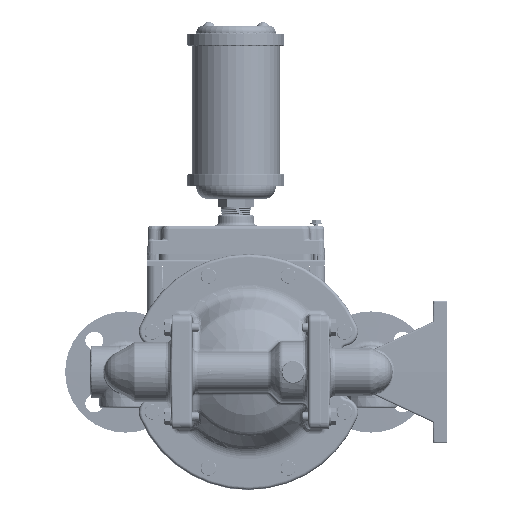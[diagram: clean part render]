
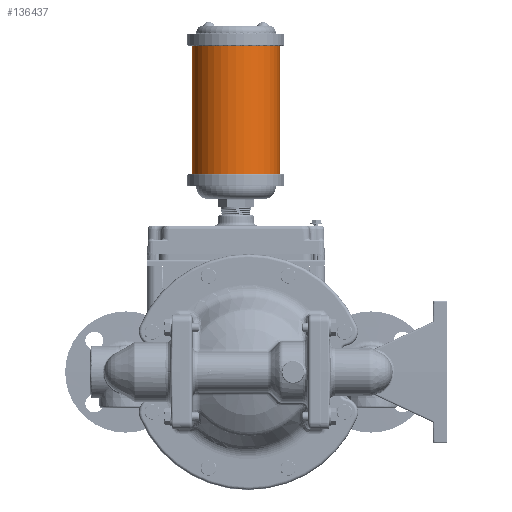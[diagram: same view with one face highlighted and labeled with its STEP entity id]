
A CAD part, left-side view. The second image highlights one B-rep face of the part: STEP entity #136437.
In plain terms, the highlighted cylindrical face has radius 39.243 mm (diameter 78.486 mm), a partial arc.
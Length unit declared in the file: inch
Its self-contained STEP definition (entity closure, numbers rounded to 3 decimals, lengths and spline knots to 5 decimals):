
#14672=CARTESIAN_POINT('',(0.,0.435,6.951));
#14673=DIRECTION('',(0.,0.,-1.));
#14674=DIRECTION('',(0.,-1.,0.));
#14675=AXIS2_PLACEMENT_3D('',#14672,#14673,#14674);
#14677=DIRECTION('',(0.,0.,1.));
#14678=VECTOR('',#14677,4.479);
#14679=CARTESIAN_POINT('',(0.,1.98,6.951));
#14680=LINE('',#14679,#14678);
#14681=DIRECTION('',(0.,0.,-1.));
#14682=VECTOR('',#14681,4.479);
#14683=CARTESIAN_POINT('',(0.,-1.11,11.43));
#14684=LINE('',#14683,#14682);
#14695=CARTESIAN_POINT('',(0.,0.435,11.43));
#14696=DIRECTION('',(0.,0.,1.));
#14697=DIRECTION('',(0.,1.,0.));
#14698=AXIS2_PLACEMENT_3D('',#14695,#14696,#14697);
#101173=CARTESIAN_POINT('',(0.,1.98,6.951));
#101174=CARTESIAN_POINT('',(0.,-1.11,6.951));
#101175=VERTEX_POINT('',#101173);
#101176=VERTEX_POINT('',#101174);
#101604=CARTESIAN_POINT('',(0.,1.98,11.43));
#101605=CARTESIAN_POINT('',(0.,-1.11,11.43));
#101606=VERTEX_POINT('',#101604);
#101607=VERTEX_POINT('',#101605);
#136426=CARTESIAN_POINT('',(0.,0.435,12.455));
#136427=DIRECTION('',(0.,0.,-1.));
#136428=DIRECTION('',(0.,-1.,0.));
#136429=AXIS2_PLACEMENT_3D('',#136426,#136427,#136428);
#136430=CYLINDRICAL_SURFACE('',#136429,1.545);
#136431=ORIENTED_EDGE('',*,*,#136127,.T.);
#136432=ORIENTED_EDGE('',*,*,#136139,.T.);
#136433=ORIENTED_EDGE('',*,*,#136158,.T.);
#136434=ORIENTED_EDGE('',*,*,#136142,.T.);
#136435=EDGE_LOOP('',(#136431,#136432,#136433,#136434));
#136436=FACE_OUTER_BOUND('',#136435,.F.);
#136437=ADVANCED_FACE('',(#136436),#136430,.T.);
#14676=CIRCLE('',#14675,1.545);
#14699=CIRCLE('',#14698,1.545);
#136127=EDGE_CURVE('',#101176,#101175,#14676,.T.);
#136139=EDGE_CURVE('',#101175,#101606,#14680,.T.);
#136142=EDGE_CURVE('',#101607,#101176,#14684,.T.);
#136158=EDGE_CURVE('',#101606,#101607,#14699,.T.);
